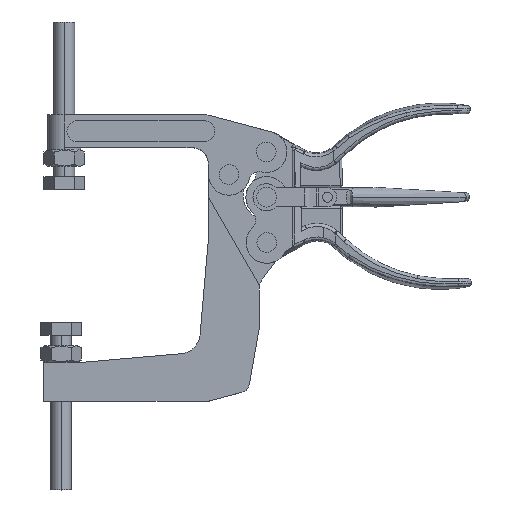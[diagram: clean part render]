
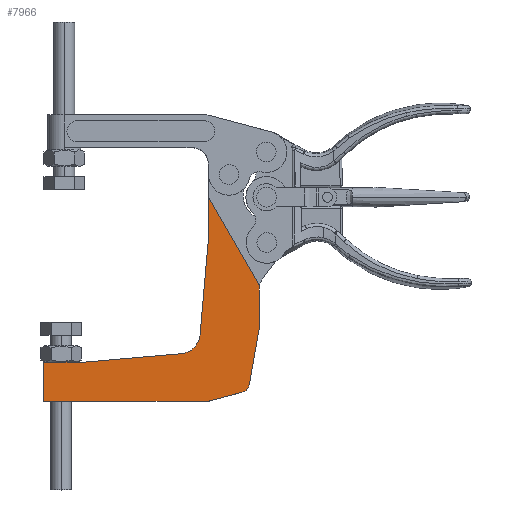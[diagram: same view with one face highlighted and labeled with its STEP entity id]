
A CAD part, top view. The second image highlights one B-rep face of the part: STEP entity #7966.
In plain terms, the highlighted planar face has unit normal (0, 0, 1).
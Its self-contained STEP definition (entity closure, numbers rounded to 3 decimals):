
#268 = DIRECTION ( 'NONE',  ( 1., 0., 0. ) ) ;
#467 = VERTEX_POINT ( 'NONE', #11919 ) ;
#744 = EDGE_CURVE ( 'NONE', #9897, #8321, #1825, .T. ) ;
#832 = LINE ( 'NONE', #2905, #11635 ) ;
#1019 = DIRECTION ( 'NONE',  ( -1., 0., 0. ) ) ;
#1091 = CARTESIAN_POINT ( 'NONE',  ( -28.506, -77.651, 0. ) ) ;
#1411 = EDGE_CURVE ( 'NONE', #5878, #7666, #12457, .T. ) ;
#1487 = VERTEX_POINT ( 'NONE', #14322 ) ;
#1825 = LINE ( 'NONE', #13519, #11397 ) ;
#1938 = DIRECTION ( 'NONE',  ( 0., 0., -1. ) ) ;
#2449 = VERTEX_POINT ( 'NONE', #12931 ) ;
#2834 = CARTESIAN_POINT ( 'NONE',  ( -27.212, -77.481, 0. ) ) ;
#2905 = CARTESIAN_POINT ( 'NONE',  ( -88.108, -58.651, 0. ) ) ;
#2915 = ORIENTED_EDGE ( 'NONE', *, *, #8970, .T. ) ;
#3040 = PLANE ( 'NONE',  #9194 ) ;
#3051 = CARTESIAN_POINT ( 'NONE',  ( -27.848, 1.609, 0. ) ) ;
#3111 = VERTEX_POINT ( 'NONE', #11956 ) ;
#3217 = VERTEX_POINT ( 'NONE', #3051 ) ;
#3234 = ORIENTED_EDGE ( 'NONE', *, *, #9899, .T. ) ;
#3584 = DIRECTION ( 'NONE',  ( 0., 0., -1. ) ) ;
#3673 = DIRECTION ( 'NONE',  ( 0., -1., 0. ) ) ;
#3725 = CARTESIAN_POINT ( 'NONE',  ( -11.687, -73.321, 0. ) ) ;
#3797 = AXIS2_PLACEMENT_3D ( 'NONE', #15527, #7674, #16851 ) ;
#3917 = VECTOR ( 'NONE', #15483, 1000. ) ;
#4172 = VERTEX_POINT ( 'NONE', #4736 ) ;
#4356 = DIRECTION ( 'NONE',  ( 1., 0., 0. ) ) ;
#4711 = LINE ( 'NONE', #3725, #11253 ) ;
#4736 = CARTESIAN_POINT ( 'NONE',  ( -88.108, -58.651, 0. ) ) ;
#4896 = VERTEX_POINT ( 'NONE', #6076 ) ;
#4957 = ORIENTED_EDGE ( 'NONE', *, *, #10081, .T. ) ;
#5111 = ORIENTED_EDGE ( 'NONE', *, *, #744, .F. ) ;
#5194 = ORIENTED_EDGE ( 'NONE', *, *, #16245, .T. ) ;
#5198 = LINE ( 'NONE', #10750, #12168 ) ;
#5235 = EDGE_CURVE ( 'NONE', #1487, #8218, #5198, .T. ) ;
#5735 = CARTESIAN_POINT ( 'NONE',  ( -28.506, -72.651, 0. ) ) ;
#5861 = CARTESIAN_POINT ( 'NONE',  ( -27.848, 1.609, 0. ) ) ;
#5878 = VERTEX_POINT ( 'NONE', #11523 ) ;
#5928 = CARTESIAN_POINT ( 'NONE',  ( -3.348, -42.651, 0. ) ) ;
#6076 = CARTESIAN_POINT ( 'NONE',  ( -107.848, -58.651, 0. ) ) ;
#6116 = VECTOR ( 'NONE', #15011, 1000. ) ;
#6533 = LINE ( 'NONE', #6729, #16171 ) ;
#6729 = CARTESIAN_POINT ( 'NONE',  ( -107.848, -58.651, 0. ) ) ;
#7011 = AXIS2_PLACEMENT_3D ( 'NONE', #5735, #14895, #7071 ) ;
#7071 = DIRECTION ( 'NONE',  ( 1., 0., 0. ) ) ;
#7474 = ORIENTED_EDGE ( 'NONE', *, *, #1411, .T. ) ;
#7603 = ORIENTED_EDGE ( 'NONE', *, *, #5235, .T. ) ;
#7636 = CARTESIAN_POINT ( 'NONE',  ( -3.348, -42.651, 0. ) ) ;
#7666 = VERTEX_POINT ( 'NONE', #14026 ) ;
#7674 = DIRECTION ( 'NONE',  ( 0., 0., 1. ) ) ;
#7733 = EDGE_CURVE ( 'NONE', #10097, #5878, #4711, .T. ) ;
#7911 = EDGE_LOOP ( 'NONE', ( #14405, #5111, #2915, #16008, #8093, #3234, #5194, #4957, #7603, #10914, #10833, #7474, #10824, #7986 ) ) ;
#7966 = ADVANCED_FACE ( 'NONE', ( #16182 ), #3040, .T. ) ;
#7986 = ORIENTED_EDGE ( 'NONE', *, *, #16050, .T. ) ;
#8093 = ORIENTED_EDGE ( 'NONE', *, *, #16482, .T. ) ;
#8193 = LINE ( 'NONE', #7636, #3917 ) ;
#8218 = VERTEX_POINT ( 'NONE', #1091 ) ;
#8261 = EDGE_CURVE ( 'NONE', #7666, #16053, #8193, .T. ) ;
#8316 = CIRCLE ( 'NONE', #11797, 10. ) ;
#8321 = VERTEX_POINT ( 'NONE', #15601 ) ;
#8547 = DIRECTION ( 'NONE',  ( 0., 1., 0. ) ) ;
#8587 = VECTOR ( 'NONE', #3673, 1000. ) ;
#8970 = EDGE_CURVE ( 'NONE', #9897, #3217, #15557, .T. ) ;
#9083 = VECTOR ( 'NONE', #1019, 1000. ) ;
#9194 = AXIS2_PLACEMENT_3D ( 'NONE', #10846, #12186, #4356 ) ;
#9405 = CARTESIAN_POINT ( 'NONE',  ( -27.848, 21.349, 0. ) ) ;
#9563 = DIRECTION ( 'NONE',  ( 0.5, -0.866, 0. ) ) ;
#9735 = CARTESIAN_POINT ( 'NONE',  ( -41.927, -44.572, 0. ) ) ;
#9897 = VERTEX_POINT ( 'NONE', #9405 ) ;
#9899 = EDGE_CURVE ( 'NONE', #2449, #4172, #832, .T. ) ;
#10081 = EDGE_CURVE ( 'NONE', #4896, #1487, #6533, .T. ) ;
#10097 = VERTEX_POINT ( 'NONE', #2834 ) ;
#10134 = CIRCLE ( 'NONE', #7011, 5. ) ;
#10138 = CARTESIAN_POINT ( 'NONE',  ( -88.108, -58.651, 0. ) ) ;
#10729 = VECTOR ( 'NONE', #8547, 1000. ) ;
#10750 = CARTESIAN_POINT ( 'NONE',  ( -28.506, -77.651, 0. ) ) ;
#10824 = ORIENTED_EDGE ( 'NONE', *, *, #8261, .T. ) ;
#10833 = ORIENTED_EDGE ( 'NONE', *, *, #7733, .T. ) ;
#10846 = CARTESIAN_POINT ( 'NONE',  ( -12.981, -68.491, 0. ) ) ;
#10914 = ORIENTED_EDGE ( 'NONE', *, *, #14992, .T. ) ;
#10975 = EDGE_CURVE ( 'NONE', #3217, #3111, #16156, .T. ) ;
#11043 = DIRECTION ( 'NONE',  ( 1., 0., 0. ) ) ;
#11253 = VECTOR ( 'NONE', #11489, 1000. ) ;
#11397 = VECTOR ( 'NONE', #9563, 1000. ) ;
#11402 = CARTESIAN_POINT ( 'NONE',  ( 6.652, -23.724, 0. ) ) ;
#11489 = DIRECTION ( 'NONE',  ( 0.966, 0.259, 0. ) ) ;
#11491 = CARTESIAN_POINT ( 'NONE',  ( -27.848, 1.609, 0. ) ) ;
#11523 = CARTESIAN_POINT ( 'NONE',  ( -11.687, -73.321, 0. ) ) ;
#11635 = VECTOR ( 'NONE', #13371, 1000. ) ;
#11797 = AXIS2_PLACEMENT_3D ( 'NONE', #11402, #3584, #12726 ) ;
#11820 = AXIS2_PLACEMENT_3D ( 'NONE', #9735, #1938, #11043 ) ;
#11912 = DIRECTION ( 'NONE',  ( 0., -1., 0. ) ) ;
#11919 = CARTESIAN_POINT ( 'NONE',  ( -3.348, -23.724, 0. ) ) ;
#11956 = CARTESIAN_POINT ( 'NONE',  ( -31.965, -45.444, 0. ) ) ;
#12168 = VECTOR ( 'NONE', #268, 1000. ) ;
#12186 = DIRECTION ( 'NONE',  ( 0., 0., 1. ) ) ;
#12457 = CIRCLE ( 'NONE', #3797, 5. ) ;
#12726 = DIRECTION ( 'NONE',  ( 1., 0., 0. ) ) ;
#12931 = CARTESIAN_POINT ( 'NONE',  ( -41.055, -54.534, 0. ) ) ;
#13192 = CIRCLE ( 'NONE', #11820, 10. ) ;
#13371 = DIRECTION ( 'NONE',  ( -0.996, -0.087, 0. ) ) ;
#13519 = CARTESIAN_POINT ( 'NONE',  ( -27.848, 21.349, 0. ) ) ;
#13820 = LINE ( 'NONE', #5928, #10729 ) ;
#13944 = EDGE_CURVE ( 'NONE', #467, #8321, #8316, .T. ) ;
#14026 = CARTESIAN_POINT ( 'NONE',  ( -8.057, -69.359, 0. ) ) ;
#14322 = CARTESIAN_POINT ( 'NONE',  ( -107.848, -77.651, 0. ) ) ;
#14405 = ORIENTED_EDGE ( 'NONE', *, *, #13944, .T. ) ;
#14895 = DIRECTION ( 'NONE',  ( 0., 0., 1. ) ) ;
#14992 = EDGE_CURVE ( 'NONE', #8218, #10097, #10134, .T. ) ;
#15011 = DIRECTION ( 'NONE',  ( -0.087, -0.996, 0. ) ) ;
#15080 = CARTESIAN_POINT ( 'NONE',  ( -3.348, -42.651, 0. ) ) ;
#15483 = DIRECTION ( 'NONE',  ( 0.174, 0.985, 0. ) ) ;
#15527 = CARTESIAN_POINT ( 'NONE',  ( -12.981, -68.491, 0. ) ) ;
#15557 = LINE ( 'NONE', #11491, #8587 ) ;
#15601 = CARTESIAN_POINT ( 'NONE',  ( -3.101, -21.514, 0. ) ) ;
#16008 = ORIENTED_EDGE ( 'NONE', *, *, #10975, .T. ) ;
#16050 = EDGE_CURVE ( 'NONE', #16053, #467, #13820, .T. ) ;
#16053 = VERTEX_POINT ( 'NONE', #15080 ) ;
#16080 = LINE ( 'NONE', #10138, #9083 ) ;
#16156 = LINE ( 'NONE', #5861, #6116 ) ;
#16171 = VECTOR ( 'NONE', #11912, 1000. ) ;
#16182 = FACE_OUTER_BOUND ( 'NONE', #7911, .T. ) ;
#16245 = EDGE_CURVE ( 'NONE', #4172, #4896, #16080, .T. ) ;
#16482 = EDGE_CURVE ( 'NONE', #3111, #2449, #13192, .T. ) ;
#16851 = DIRECTION ( 'NONE',  ( 1., 0., 0. ) ) ;
